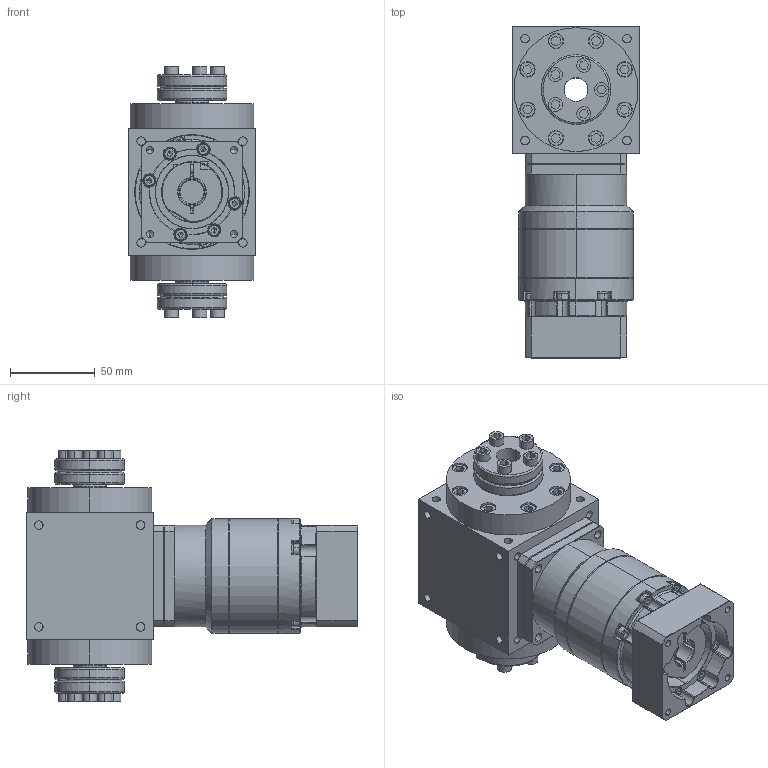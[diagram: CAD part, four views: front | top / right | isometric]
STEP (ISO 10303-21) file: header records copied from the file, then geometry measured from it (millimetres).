
FILE_DESCRIPTION (( 'STEP AP203' ), '1' );
FILE_NAME ('AT075-FC-L2 14-50-70-M5.STEP', '2024-12-24T09:17:02', ( '' ), ( '' ), 'SwSTEP 2.0', 'SolidWorks 2021', '' );
FILE_SCHEMA (( 'CONFIG_CONTROL_DESIGN' ));
Length unit declared in the file: millimetre
Products named in the file (3): AT075-FC-L2 14-50-70-M5; AT075-FC; VRB-060-L2-S2-P1 14-50-70-M5
Assembly tree (2 placements, depth 2):
  AT075-FC-L2 14-50-70-M5
    AT075-FC
    VRB-060-L2-S2-P1 14-50-70-M5
Bounding box: 75 x 195.5 x 148 mm (x, y, z)
Volume: 844889.4 mm3; surface area: 141819.5 mm2
Topology: 33 solids, 33 shells, 1450 faces, 3573 edges, 2253 vertices
Faces by surface type: plane 650, cylinder 522, cone 196, torus 70, bspline 12
Entity records: 44456 total; most frequent: CARTESIAN_POINT 9794, DIRECTION 7428, ORIENTED_EDGE 7050, EDGE_CURVE 3525, AXIS2_PLACEMENT_3D 2856, VERTEX_POINT 2253, VECTOR 1716, LINE 1716
